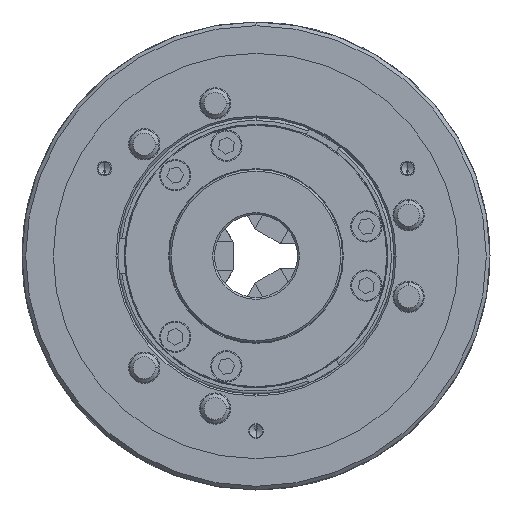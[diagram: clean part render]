
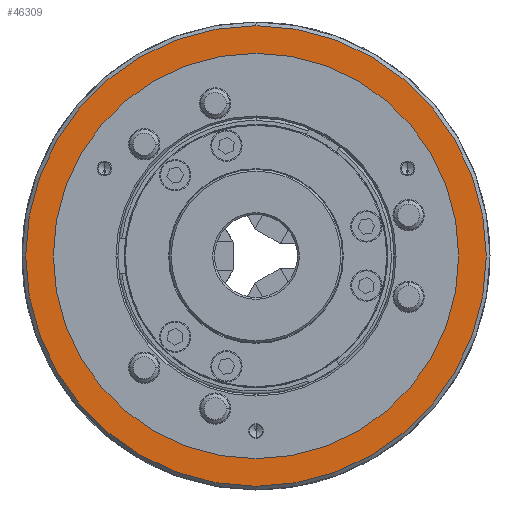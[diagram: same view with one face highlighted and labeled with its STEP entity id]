
A CAD part, left-side view. The second image highlights one B-rep face of the part: STEP entity #46309.
In plain terms, the highlighted planar face has unit normal (-1, 0, 0).
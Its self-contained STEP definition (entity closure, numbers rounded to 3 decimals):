
#663 = CARTESIAN_POINT ( 'NONE',  ( 0., 0., 110. ) ) ;
#1015 = CARTESIAN_POINT ( 'NONE',  ( 0., 0., 0. ) ) ;
#4138 = EDGE_CURVE ( 'NONE', #75808, #12023, #67763, .T. ) ;
#4590 = CARTESIAN_POINT ( 'NONE',  ( 0., 0., 0. ) ) ;
#4749 = CARTESIAN_POINT ( 'NONE',  ( 0., 0., 125. ) ) ;
#5181 = PLANE ( 'NONE',  #6931 ) ;
#6314 = CIRCLE ( 'NONE', #68307, 110. ) ;
#6931 = AXIS2_PLACEMENT_3D ( 'NONE', #12360, #19485, #68881 ) ;
#7970 = ORIENTED_EDGE ( 'NONE', *, *, #39652, .F. ) ;
#8154 = DIRECTION ( 'NONE',  ( 0., 0., -1. ) ) ;
#11741 = DIRECTION ( 'NONE',  ( 0., 0., -1. ) ) ;
#12023 = VERTEX_POINT ( 'NONE', #4749 ) ;
#12360 = CARTESIAN_POINT ( 'NONE',  ( 0., 0., 0. ) ) ;
#14728 = FACE_BOUND ( 'NONE', #34996, .T. ) ;
#17424 = CARTESIAN_POINT ( 'NONE',  ( 0., 0., -110. ) ) ;
#18570 = EDGE_CURVE ( 'NONE', #65007, #23372, #6314, .T. ) ;
#19485 = DIRECTION ( 'NONE',  ( 1., 0., 0. ) ) ;
#20624 = AXIS2_PLACEMENT_3D ( 'NONE', #4590, #54064, #11741 ) ;
#21790 = CARTESIAN_POINT ( 'NONE',  ( 0., 0., -125. ) ) ;
#23372 = VERTEX_POINT ( 'NONE', #17424 ) ;
#24835 = ORIENTED_EDGE ( 'NONE', *, *, #18570, .F. ) ;
#25381 = DIRECTION ( 'NONE',  ( -1., 0., 0. ) ) ;
#29931 = ORIENTED_EDGE ( 'NONE', *, *, #4138, .F. ) ;
#33530 = CARTESIAN_POINT ( 'NONE',  ( 0., 0., 0. ) ) ;
#34996 = EDGE_LOOP ( 'NONE', ( #83142, #24835 ) ) ;
#39652 = EDGE_CURVE ( 'NONE', #12023, #75808, #66396, .T. ) ;
#40497 = AXIS2_PLACEMENT_3D ( 'NONE', #67736, #25381, #74767 ) ;
#40557 = DIRECTION ( 'NONE',  ( 0., 0., -1. ) ) ;
#46309 = ADVANCED_FACE ( 'NONE', ( #14728, #87672 ), #5181, .F. ) ;
#50475 = DIRECTION ( 'NONE',  ( 1., 0., 0. ) ) ;
#54064 = DIRECTION ( 'NONE',  ( 1., 0., 0. ) ) ;
#58724 = EDGE_LOOP ( 'NONE', ( #29931, #7970 ) ) ;
#60982 = AXIS2_PLACEMENT_3D ( 'NONE', #1015, #50475, #8154 ) ;
#65007 = VERTEX_POINT ( 'NONE', #663 ) ;
#65244 = EDGE_CURVE ( 'NONE', #23372, #65007, #78407, .T. ) ;
#66396 = CIRCLE ( 'NONE', #60982, 125. ) ;
#67736 = CARTESIAN_POINT ( 'NONE',  ( 0., 0., 0. ) ) ;
#67763 = CIRCLE ( 'NONE', #20624, 125. ) ;
#68307 = AXIS2_PLACEMENT_3D ( 'NONE', #33530, #82968, #40557 ) ;
#68881 = DIRECTION ( 'NONE',  ( 0., 0., -1. ) ) ;
#74767 = DIRECTION ( 'NONE',  ( 0., 0., -1. ) ) ;
#75808 = VERTEX_POINT ( 'NONE', #21790 ) ;
#78407 = CIRCLE ( 'NONE', #40497, 110. ) ;
#82968 = DIRECTION ( 'NONE',  ( -1., 0., 0. ) ) ;
#83142 = ORIENTED_EDGE ( 'NONE', *, *, #65244, .F. ) ;
#87672 = FACE_OUTER_BOUND ( 'NONE', #58724, .T. ) ;
